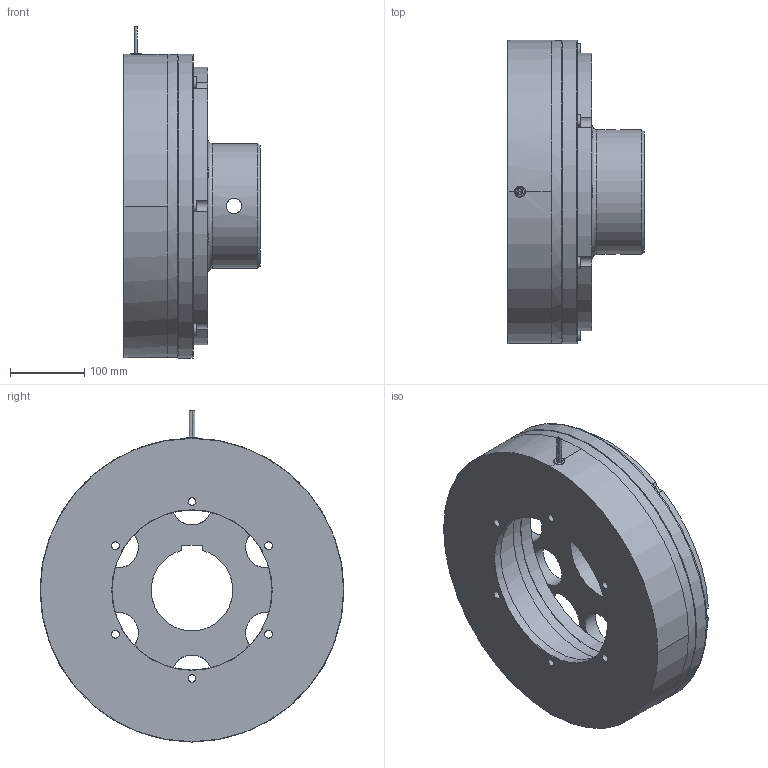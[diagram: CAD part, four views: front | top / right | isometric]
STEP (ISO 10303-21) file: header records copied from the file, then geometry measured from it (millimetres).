
FILE_DESCRIPTION(/* description */ (''),/* implementation_level */ '2;1');
FILE_NAME(/* name */ 'X:\INVENTOR\DISEGNI\08_Freni_Friz_Elettmag_Monodisco\08_28 EMFL_DF\EMFL_DF STEP\08_28_400_12 EMFL400_DF-C-ME@STEP.stp',/* time_stamp */ '2018-04-23T10:59:16+02:00',/* author */ ('stefano'),/* organization */ (''),/* preprocessor_version */ 'ST-DEVELOPER v17',/* originating_system */ 'Autodesk Inventor 2018',/* authorisation */ '');
FILE_SCHEMA (('AUTOMOTIVE_DESIGN { 1 0 10303 214 3 1 1 }'));
Length unit declared in the file: millimetre
Products named in the file (1): 08_28_400_12 EMFL400_DF-C-ME_Substitute_1
Bounding box: 183 x 409 x 446.72 mm (x, y, z)
Volume: 9235686.8 mm3; surface area: 922565.1 mm2
Topology: 4 solids, 4 shells, 504 faces, 1551 edges, 1035 vertices
Faces by surface type: cylinder 292, plane 164, cone 38, torus 7, bspline 3
Full cylindrical faces by diameter (mm): 3 x12, 10.106 x6, 10.5 x6, 12 x1, 15 x1, 16 x12, 17.8 x12, 18 x18, 20.752 x2, 55 x6, 68 x6, 168 x1, 215 x1, 260 x3, 270 x1, 306 x1, 376 x1, 408 x1, 409 x2
Entity records: 19047 total; most frequent: CARTESIAN_POINT 3590, DIRECTION 3556, ORIENTED_EDGE 3094, AXIS2_PLACEMENT_3D 1571, EDGE_CURVE 1547, CIRCLE 1069, VERTEX_POINT 1036, EDGE_LOOP 638
